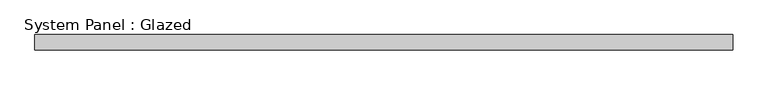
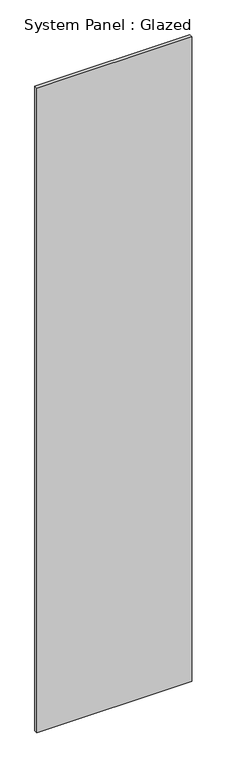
"""IFC4 building model written with IfcOpenShell, lengths in millimetres: plate geometry, System Panel : Glazed."""

from ifc_helpers import new_model, si_unit, origin, origin_with_axes, place, context, project, spatial, polyline, outline, extrude, source, transform, mapped, element, save


def system_panel_glazed_600cb2cb(model_context):
    return source(origin(), model_context, "Body", "SweptSolid", [
        extrude(outline(polyline([(577.242278, -12.5), (-577.242278, -12.5), (-577.242278, 12.5), (577.242278, 12.5), (577.242278, -12.5)])), origin_with_axes(), (0.0, 0.0, 1.0), 5080.0),
    ])


if __name__ == "__main__":
    model = new_model("IFC4")
    model_context = context("Model", 3, world=origin())
    ifc_project = project(units=[si_unit("LENGTHUNIT", "METRE", prefix="MILLI")], contexts=[model_context])
    site = spatial("IfcSite", under=ifc_project)
    building = spatial("IfcBuilding", under=site)
    placement = place(None, origin())
    system_panel_glazed_shape = system_panel_glazed_600cb2cb(model_context)
    element("IfcPlate", 1, ObjectType="System Panel : Glazed", at=placement, inside=building, context=model_context, shape_type="MappedRepresentation", body=[
        mapped(system_panel_glazed_shape, transform((0.0, 0.0, 0.0), x_axis=(1.0, 0.0, 0.0), y_axis=(0.0, 1.0, 0.0), z_axis=(0.0, 0.0, 1.0))),
    ])
    save(model, "model.ifc")
